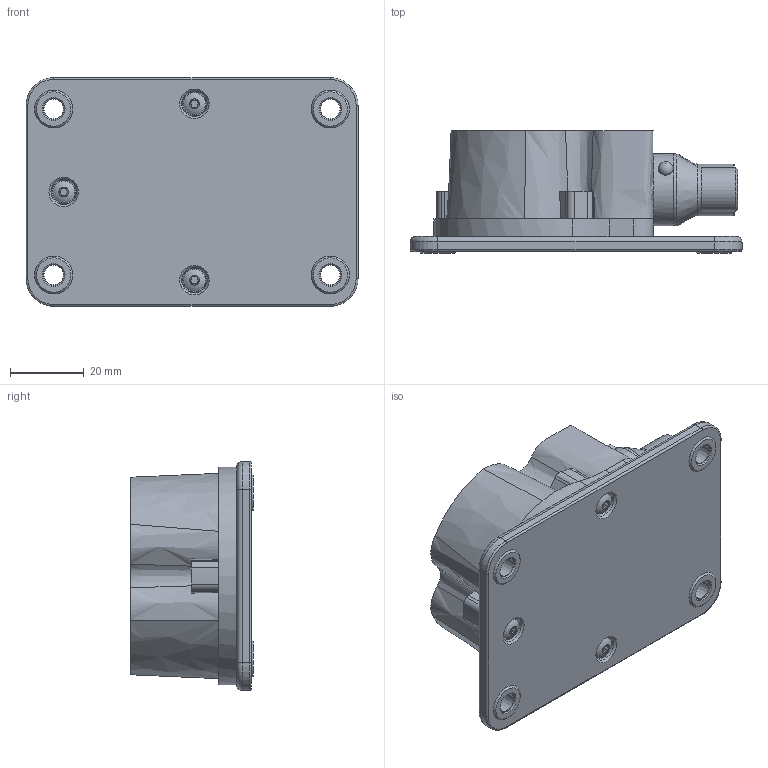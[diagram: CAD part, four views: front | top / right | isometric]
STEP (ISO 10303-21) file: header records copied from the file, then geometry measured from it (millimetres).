
FILE_DESCRIPTION( ( 'STEP AP203' ), ' ' );
FILE_NAME( 'p:/temp/worker_5503/1440_4572/app_40_02017021513382860925126192d056f_000000_00_00_000000/format_3/JN2300.stp', '2017-02-15T12:38:32', ( '' ), ( '' ), ' ', 'PARTsolutions', ' ' );
FILE_SCHEMA( ( 'CONFIG_CONTROL_DESIGN' ) );
Length unit declared in the file: millimetre
Products named in the file (1): _JN2300
Bounding box: 90 x 33.2 x 62 mm (x, y, z)
Volume: 106608.9 mm3; surface area: 20893.3 mm2
Topology: 1 solids, 1 shells, 215 faces, 540 edges, 350 vertices
Faces by surface type: cylinder 103, plane 53, cone 27, torus 14, bspline 11, sphere 7
Full cylindrical faces by diameter (mm): 5.6 x4, 6 x3, 8.5 x1, 10.917 x1, 12 x1, 12.3 x1, 14 x1, 19.5 x2
Entity records: 6990 total; most frequent: CARTESIAN_POINT 1995, DIRECTION 1067, ORIENTED_EDGE 950, EDGE_CURVE 475, AXIS2_PLACEMENT_3D 462, VERTEX_POINT 341, EDGE_LOOP 298, CIRCLE 257
